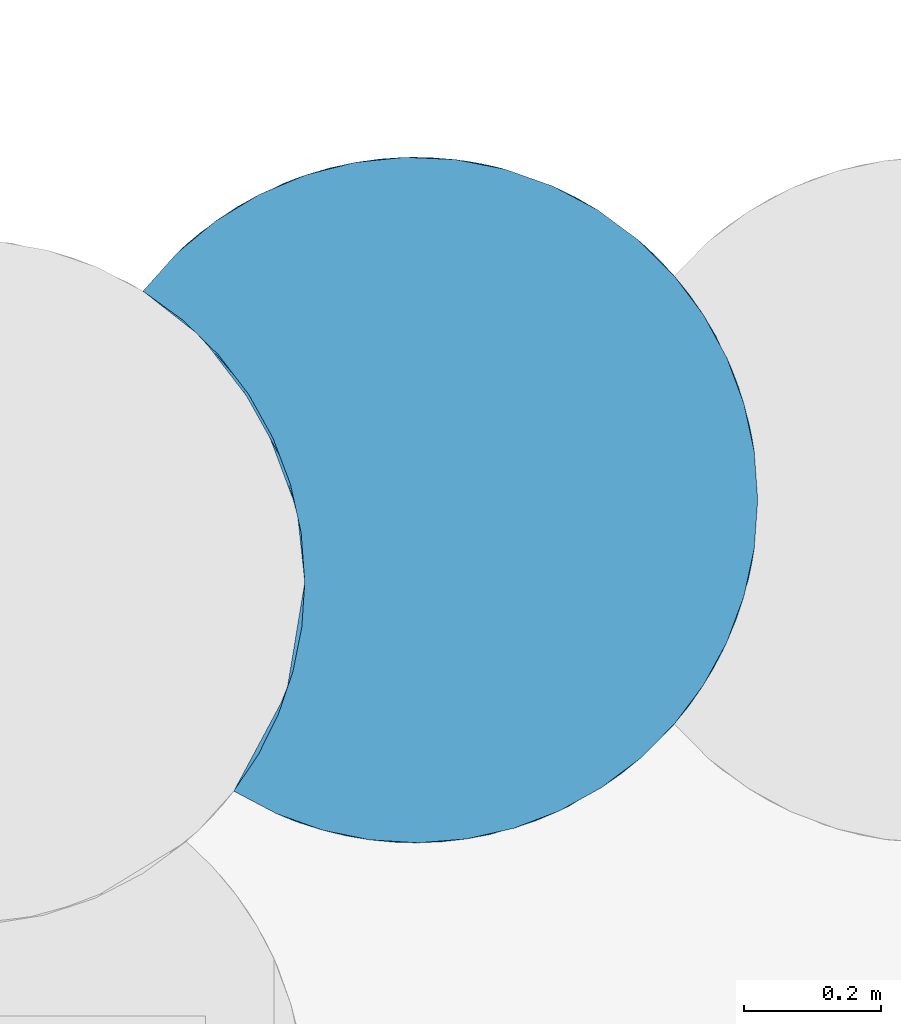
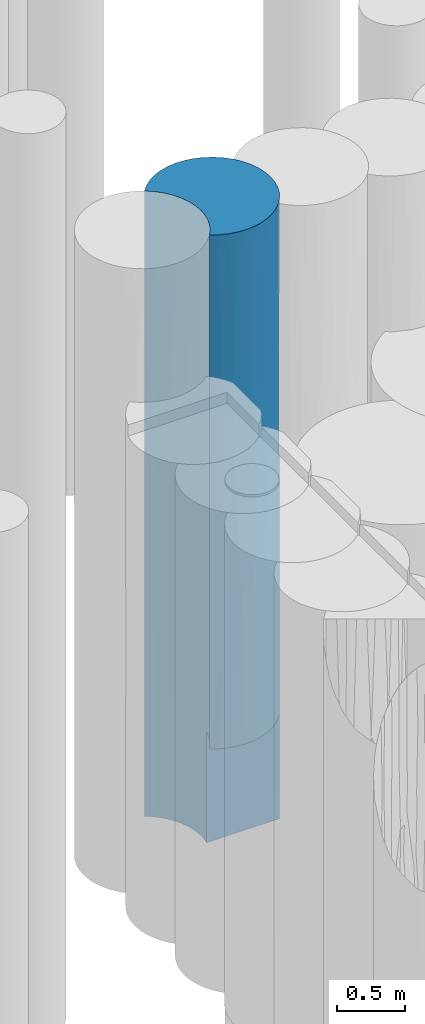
# One storey, part 27 of 104: 1 pile.
"""IFC2X3 building model written with IfcOpenShell, lengths in millimetres."""

from ifc_helpers import new_model, entity, si_unit, converted_unit, derived_unit, direction, frame, origin, place, context, subcontext, project, spatial, faceted_brep, source, transform, mapped, material, element, save


model = new_model("IFC2X3")

# Units and contexts
model_context = context("Model", 3, precision=0.01, world=origin(), true_north=direction((6.12303176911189e-17, 1.0)))
body_context = subcontext(model_context, "Body", "Model", "MODEL_VIEW")
ifc_project = project(units=[si_unit("LENGTHUNIT", "METRE", prefix="MILLI"), si_unit("AREAUNIT", "SQUARE_METRE", prefix="MILLI"), si_unit("VOLUMEUNIT", "CUBIC_METRE"), converted_unit("PLANEANGLEUNIT", "DEGREE", entity("IfcRatioMeasure", 0.0174532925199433), si_unit("PLANEANGLEUNIT", "RADIAN"), dimensions=[0, 0, 0, 0, 0, 0, 0]), si_unit("MASSUNIT", "GRAM", prefix="KILO"), derived_unit("MASSDENSITYUNIT", [(si_unit("MASSUNIT", "GRAM", prefix="KILO"), 1), (si_unit("LENGTHUNIT", "METRE"), -3)]), derived_unit("MOMENTOFINERTIAUNIT", [(si_unit("LENGTHUNIT", "METRE"), 4)]), si_unit("TIMEUNIT", "SECOND"), si_unit("FREQUENCYUNIT", "HERTZ"), si_unit("THERMODYNAMICTEMPERATUREUNIT", "DEGREE_CELSIUS"), derived_unit("THERMALTRANSMITTANCEUNIT", [(si_unit("MASSUNIT", "GRAM", prefix="KILO"), 1), (si_unit("THERMODYNAMICTEMPERATUREUNIT", "KELVIN"), -1), (si_unit("TIMEUNIT", "SECOND"), -3)]), derived_unit("VOLUMETRICFLOWRATEUNIT", [(si_unit("LENGTHUNIT", "METRE"), 3), (si_unit("TIMEUNIT", "SECOND"), -1)]), si_unit("ELECTRICCURRENTUNIT", "AMPERE"), si_unit("ELECTRICVOLTAGEUNIT", "VOLT"), si_unit("POWERUNIT", "WATT"), si_unit("FORCEUNIT", "NEWTON", prefix="KILO"), si_unit("ILLUMINANCEUNIT", "LUX"), si_unit("LUMINOUSFLUXUNIT", "LUMEN"), si_unit("LUMINOUSINTENSITYUNIT", "CANDELA"), derived_unit("USERDEFINED", [(si_unit("MASSUNIT", "GRAM", prefix="KILO"), -1), (si_unit("LENGTHUNIT", "METRE"), -2), (si_unit("TIMEUNIT", "SECOND"), 3), (si_unit("LUMINOUSFLUXUNIT", "LUMEN"), 1)]), derived_unit("LINEARVELOCITYUNIT", [(si_unit("LENGTHUNIT", "METRE"), 1), (si_unit("TIMEUNIT", "SECOND"), -1)]), si_unit("PRESSUREUNIT", "PASCAL"), derived_unit("USERDEFINED", [(si_unit("LENGTHUNIT", "METRE"), -2), (si_unit("MASSUNIT", "GRAM", prefix="KILO"), 1), (si_unit("TIMEUNIT", "SECOND"), -2)]), derived_unit("LINEARFORCEUNIT", [(si_unit("MASSUNIT", "GRAM", prefix="KILO"), 1), (si_unit("LENGTHUNIT", "METRE"), 1), (si_unit("TIMEUNIT", "SECOND"), -2), (si_unit("LENGTHUNIT", "METRE"), -1)]), derived_unit("PLANARFORCEUNIT", [(si_unit("MASSUNIT", "GRAM", prefix="KILO"), 1), (si_unit("LENGTHUNIT", "METRE"), 1), (si_unit("TIMEUNIT", "SECOND"), -2), (si_unit("LENGTHUNIT", "METRE"), -2)])], contexts=[model_context])

# Site, building, storey
site_placement = place(None, origin())
site = spatial("IfcSite", under=ifc_project, at=site_placement, Name="Theater aan de Parade", CompositionType="ELEMENT")
building_placement = place(site_placement, origin())
building = spatial("IfcBuilding", under=site, at=building_placement, Name="Theater aan de Parade", CompositionType="ELEMENT")
storey_placement = place(building_placement, frame((0.0, 0.0, -5520.0)))
storey = spatial("IfcBuildingStorey", under=building, at=storey_placement, Name="-2 kelder", CompositionType="ELEMENT", Elevation=-5520.0)

# Pile
ifc_material = material(Name="00_PBT_MAT_grout")
shared_shape = source(origin(), body_context, "Body", "Brep", [
    faceted_brep([(383.685561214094, 1001.36499844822, 0.0), (457.451308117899, 998.039591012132, 0.0), (529.922278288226, 983.886529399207, 0.0), (599.518179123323, 959.214667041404, 0.0), (664.721430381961, 924.562128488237, 0.0), (724.11021838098, 880.684581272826, 0.0), (776.380319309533, 828.539533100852, 0.0), (819.001267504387, 771.4853954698, 0.0), (853.076947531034, 708.9552122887, 0.0), (877.924742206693, 642.215158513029, 0.0), (893.038982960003, 572.620553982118, 0.0), (898.112452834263, 501.573176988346, 0.0), (892.357470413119, 425.93018261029, 0.0), (875.225589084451, 352.030356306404, 0.0), (847.11133924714, 281.573176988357, 0.0), (227.438972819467, 281.573176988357, 0.0), (235.007126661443, 331.299158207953, 0.0), (237.541024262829, 381.57317698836, 0.0), (232.299912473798, 453.778734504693, 0.0), (216.686454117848, 524.4705424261, 0.0), (191.02797671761, 592.166586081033, 0.0), (155.862396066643, 655.447655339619, 0.0), (111.926939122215, 712.987097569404, 0.0), (60.1426884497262, 763.57863017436, 0.0), (1.5952722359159, 806.161629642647, 0.0), (50.7747332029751, 861.234835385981, 0.0), (107.536753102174, 908.470907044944, 0.0), (170.636869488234, 946.831370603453, 0.0), (238.697326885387, 975.479093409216, 0.0), (310.233621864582, 993.789908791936, 0.0), (886.469305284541, 608.846587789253, 3274.77238221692), (898.112452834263, 501.57317698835, 2496.92455005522), (890.701084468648, 587.342868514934, 2029.23110966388), (893.038982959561, 572.620553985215, 5620.0), (891.022562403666, 585.475643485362, 4448.84672070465), (877.924742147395, 642.215158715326, 5620.0), (798.714309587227, 800.769019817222, 954.948973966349), (859.08011859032, 695.245093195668, 838.591674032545), (735.333533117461, 870.737020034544, 862.710628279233), (664.721430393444, 924.562128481, 5620.0), (632.760359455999, 943.093686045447, 4289.15649337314), (599.51817928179, 959.214666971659, 5620.0), (776.39375154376, 828.533815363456, 5620.0), (819.001267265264, 771.485395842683, 5620.0), (819.009886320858, 771.471955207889, 4178.05207387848), (837.153748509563, 740.827729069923, 3234.31863389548), (866.690585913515, 676.028137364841, 4359.74061850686), (511.637534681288, 988.51470919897, 833.937265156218), (70.5668306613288, 879.348064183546, 1489.04423626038), (1.5952722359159, 806.161629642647, 1561.53582921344), (274.126982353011, 985.956912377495, 1412.85801779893), (632.760359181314, 943.09368619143, 1352.66707253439), (818.954326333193, 771.55857938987, 1914.8559751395), (866.690586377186, 676.028136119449, 1666.88834285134), (107.536753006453, 908.470906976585, 5620.0), (170.636869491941, 946.831370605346, 5620.0), (138.377656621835, 928.817645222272, 4642.98311287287), (346.81956039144, 998.935257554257, 2697.48211070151), (225.362342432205, 970.782511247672, 2732.969797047), (204.137510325, 962.413411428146, 3862.83597304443), (50.7747330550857, 861.234835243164, 5620.0), (1.5952722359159, 806.161629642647, 4839.22611279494), (1.5952722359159, 806.161629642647, 5620.0), (1.5952722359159, 806.161629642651, 780.769009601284), (898.112452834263, 501.57317698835, 1561.53772497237), (751.21608482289, 855.57575477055, 4085.12489343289), (724.110218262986, 880.684581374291, 5620.0), (470.217889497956, 996.346666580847, 2788.29338879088), (632.760358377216, 943.093686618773, 2810.0), (493.948415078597, 992.302703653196, 1669.31624515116), (886.722515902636, 607.687296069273, 929.942340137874), (383.685561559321, 1001.36499845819, 5620.0), (346.819561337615, 998.935257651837, 4258.74319740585), (310.233622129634, 993.789908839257, 5620.0), (420.629905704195, 1001.06588395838, 938.261452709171), (393.348252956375, 1001.55047887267, 1852.15421685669), (853.076947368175, 708.955212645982, 5620.0), (898.112452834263, 501.57317698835, 5620.0), (898.112452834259, 501.57317698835, 4839.23113751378), (61.5763095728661, 871.361527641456, 4448.84671822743), (1.5952722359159, 806.161629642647, 4058.45819818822), (493.948415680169, 992.302703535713, 3907.27053109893), (493.948415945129, 992.30270348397, 4797.29415950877), (138.377656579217, 928.817645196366, 973.520934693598), (138.377656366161, 928.817645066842, 2004.56753867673), (751.216084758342, 855.575754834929, 1712.73917766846), (225.618714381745, 970.876820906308, 4733.2273488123), (238.697327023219, 975.479093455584, 5620.0), (457.451308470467, 998.039590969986, 5620.0), (529.922278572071, 983.886529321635, 5620.0), (60.9920336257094, 870.828946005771, 2501.51609416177), (86.0331108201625, 892.221976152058, 3590.76885410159), (764.162487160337, 842.17172714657, 2898.93203320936), (898.112452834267, 501.57317698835, 4058.4622750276), (898.112452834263, 501.573176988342, 2810.0), (1.59527223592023, 806.161629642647, 3123.07165842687), (871.134570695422, 663.591929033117, 2551.20550642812), (367.48390067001, 2.5121668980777, 2392.03258811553), (229.397628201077, 30.8978027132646, 1915.82668576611), (332.296140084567, 5.92389273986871, 1000.0), (886.808415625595, 395.855364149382, 3250.85310883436), (890.456049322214, 414.407914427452, 4638.91681543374), (196.559174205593, 43.9966523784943, 1000.0), (263.079618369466, 20.1522243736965, 1000.0), (729.774460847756, 127.407020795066, 3309.9953882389), (699.062255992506, 102.2872944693, 2481.29891870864), (774.041437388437, 171.910624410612, 2425.46266462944), (220.355405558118, 34.2377170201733, 4167.39335114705), (227.021110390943, 31.7564547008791, 2887.30901246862), (297.427367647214, 11.815569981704, 3665.18952131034), (507.997444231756, 13.7973179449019, 3309.99066008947), (473.9455393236, 7.35728995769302, 2381.95780749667), (575.658302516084, 34.1574399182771, 2223.53955366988), (542.188145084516, 22.7807429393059, 1000.0), (575.644441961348, 34.1521752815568, 4396.48950154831), (473.244283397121, 7.25019751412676, 5620.0), (438.128637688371, 3.17704442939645, 4396.41690280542), (402.812959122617, 1.5952722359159, 5620.0), (297.427367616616, 11.8155699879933, 4669.59718121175), (134.058204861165, 76.9847243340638, 1000.0), (134.058204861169, 76.9847243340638, 2496.92458556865), (473.257447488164, 7.25219849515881, 1000.0), (134.058204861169, 76.9847243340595, 5620.0), (134.058204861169, 76.9847243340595, 4058.46229278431), (196.554013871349, 43.9989254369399, 5620.0), (818.99608792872, 231.652881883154, 5620.0), (798.709106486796, 202.370367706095, 4487.98401140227), (853.074507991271, 294.185789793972, 5620.0), (670.097413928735, 82.0208191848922, 1000.0), (622.751316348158, 54.8771046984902, 3243.95252695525), (608.24095738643, 47.8706185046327, 1000.0), (866.689090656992, 327.114200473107, 4098.49570027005), (832.045257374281, 253.1736577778, 2211.63533183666), (796.614310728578, 199.585976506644, 3310.00854581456), (852.261580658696, 292.411589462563, 3150.31836188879), (134.058204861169, 76.9847243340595, 3277.69343917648), (332.286196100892, 5.92521328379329, 5620.0), (263.071897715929, 20.1543899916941, 5620.0), (402.824781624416, 1.59538352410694, 1000.0), (542.174301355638, 22.7765773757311, 5620.0), (886.418386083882, 394.068221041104, 1090.71921881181), (699.049978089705, 102.278040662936, 4138.62967590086), (847.11133924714, 281.573176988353, 1000.0), (883.515200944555, 381.63914459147, 2185.76885280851), (815.185263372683, 225.801041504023, 1000.0), (776.39816711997, 174.617647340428, 1000.0), (776.38865272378, 174.606639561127, 5620.0), (877.923984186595, 360.928609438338, 5620.0), (608.227167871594, 47.8642322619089, 5620.0), (726.522719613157, 124.549707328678, 1000.0), (726.511208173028, 124.539680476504, 5620.0), (670.08442172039, 82.0123969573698, 5620.0), (893.039043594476, 430.526222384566, 5620.0), (400.035720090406, 1.57687595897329, 3347.27333721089), (191.02797671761, 592.166586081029, 5620.0), (216.686454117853, 524.470542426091, 5620.0), (232.299912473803, 453.778734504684, 5620.0), (237.541024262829, 381.573176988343, 5620.0), (233.25661524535, 316.258149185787, 5620.0), (220.476812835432, 252.062466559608, 5620.0), (199.420632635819, 190.086291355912, 5620.0), (170.448927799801, 131.391748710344, 5620.0), (60.1426884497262, 763.57863017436, 5620.0), (111.92693912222, 712.987097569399, 5620.0), (155.862396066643, 655.447655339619, 5620.0), (205.084047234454, 558.783565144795, 1275.4748546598), (174.592006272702, 624.444416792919, 2413.17821378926), (134.937434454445, 685.013604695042, 1275.47485737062), (146.052218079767, 669.876150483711, 4791.14471438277), (86.9516662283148, 739.221332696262, 4691.947622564), (134.937434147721, 685.013605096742, 3964.75162039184), (237.541024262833, 381.573176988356, 780.768862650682), (71.854896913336, 753.371824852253, 3590.76885520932), (86.360499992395, 739.797929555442, 2342.39364619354), (230.172266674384, 467.097787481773, 1171.15327857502), (237.541024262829, 381.573176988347, 1405.0), (237.541024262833, 381.573176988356, 1561.53772530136), (230.162823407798, 467.152163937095, 4475.99950351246), (205.084046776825, 558.783566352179, 4290.23486386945), (227.689766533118, 480.336583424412, 3590.76885120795), (237.541024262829, 381.573176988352, 4058.4622746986), (237.541024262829, 381.573176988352, 3123.07545060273), (226.296279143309, 487.016530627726, 2342.3065610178), (70.3292918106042, 754.737978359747, 1171.15328001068), (196.384607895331, 580.225047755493, 3309.04841243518), (237.541024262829, 381.573176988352, 2810.0), (127.214742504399, 694.869192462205, 3061.57673222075), (175.418032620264, 140.194376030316, 1000.0), (182.010174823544, 152.559696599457, 1969.45245263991), (210.963980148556, 220.729448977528, 4143.27025902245), (227.438972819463, 281.573176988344, 1000.0), (218.485400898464, 244.852635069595, 2318.9624759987), (206.783588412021, 208.913349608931, 1000.0), (180.768461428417, 150.165659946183, 3277.69344064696), (218.083139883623, 243.44542773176, 3244.18304789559)], [[[0, 1, 2, 3, 4, 5, 6, 7, 8, 9, 10, 11, 12, 13, 14, 15, 16, 17, 18, 19, 20, 21, 22, 23, 24, 25, 26, 27, 28, 29]], [[30, 31, 32]], [[33, 34, 35]], [[36, 37, 7]], [[38, 36, 6]], [[38, 6, 5]], [[39, 40, 41]], [[42, 43, 44]], [[45, 46, 30]], [[2, 47, 3]], [[48, 25, 49]], [[29, 28, 50]], [[4, 51, 38]], [[37, 52, 53]], [[54, 55, 56]], [[57, 58, 59]], [[51, 4, 3]], [[60, 61, 62]], [[25, 24, 63, 49]], [[64, 32, 31]], [[65, 66, 42]], [[67, 68, 69]], [[70, 10, 9]], [[71, 72, 73]], [[74, 75, 69]], [[76, 35, 46]], [[51, 3, 47]], [[46, 44, 76]], [[57, 59, 72]], [[33, 77, 78]], [[43, 76, 44]], [[34, 33, 78]], [[66, 65, 40]], [[46, 45, 44]], [[39, 66, 40]], [[61, 79, 80]], [[29, 50, 74]], [[40, 81, 82]], [[69, 47, 74]], [[11, 10, 70]], [[50, 28, 83]], [[37, 9, 8]], [[84, 83, 48]], [[72, 81, 67]], [[70, 9, 37]], [[38, 85, 36]], [[68, 51, 69]], [[68, 81, 40]], [[83, 27, 26]], [[86, 59, 56]], [[68, 40, 65]], [[68, 85, 51]], [[87, 86, 55]], [[6, 36, 7]], [[40, 82, 41]], [[88, 89, 82]], [[72, 71, 82]], [[69, 75, 67]], [[74, 47, 1]], [[71, 88, 82]], [[55, 86, 56]], [[84, 90, 91]], [[58, 50, 84]], [[86, 73, 72]], [[83, 28, 27]], [[60, 54, 79]], [[65, 44, 92]], [[84, 48, 90]], [[1, 0, 74]], [[30, 93, 94, 31]], [[68, 65, 92]], [[52, 36, 85]], [[37, 53, 70]], [[83, 26, 25]], [[50, 83, 84]], [[80, 91, 95]], [[79, 54, 56]], [[32, 70, 53]], [[11, 70, 64]], [[29, 74, 0]], [[75, 50, 57]], [[82, 89, 41]], [[72, 82, 81]], [[56, 59, 91]], [[91, 59, 58]], [[92, 52, 85]], [[96, 52, 45]], [[70, 32, 64]], [[32, 96, 30]], [[32, 53, 96]], [[46, 34, 30]], [[52, 96, 53]], [[45, 30, 96]], [[50, 75, 74]], [[67, 75, 57]], [[25, 48, 83]], [[90, 49, 95]], [[49, 90, 48]], [[91, 90, 95]], [[4, 38, 5]], [[51, 85, 38]], [[73, 86, 87]], [[72, 59, 86]], [[7, 37, 8]], [[52, 37, 36]], [[51, 47, 69]], [[1, 47, 2]], [[50, 58, 57]], [[91, 58, 84]], [[72, 67, 57]], [[68, 67, 81]], [[52, 92, 45]], [[68, 92, 85]], [[92, 44, 45]], [[44, 65, 42]], [[34, 78, 93]], [[30, 34, 93]], [[34, 46, 35]], [[79, 91, 80]], [[60, 79, 61]], [[91, 79, 56]], [[97, 98, 99]], [[100, 93, 101]], [[102, 103, 98]], [[104, 105, 106]], [[107, 108, 109]], [[110, 111, 112]], [[112, 111, 113]], [[114, 115, 116]], [[116, 117, 118]], [[119, 98, 120]], [[121, 113, 111]], [[122, 123, 124]], [[125, 126, 127]], [[112, 128, 105]], [[112, 129, 110]], [[113, 130, 112]], [[131, 100, 101]], [[102, 98, 119]], [[109, 118, 107]], [[132, 133, 106]], [[134, 100, 131]], [[116, 110, 114]], [[108, 107, 135]], [[118, 136, 137]], [[115, 117, 116]], [[111, 138, 121]], [[115, 114, 139]], [[11, 64, 140]], [[104, 126, 141]], [[142, 143, 132]], [[144, 132, 145]], [[128, 112, 130]], [[106, 145, 132]], [[125, 146, 126]], [[143, 100, 134]], [[132, 144, 142]], [[143, 64, 31, 94]], [[131, 126, 133]], [[140, 13, 12]], [[116, 118, 109]], [[14, 13, 142]], [[118, 137, 124]], [[138, 97, 99]], [[147, 127, 131]], [[114, 148, 139]], [[149, 105, 128]], [[140, 143, 142]], [[106, 149, 145]], [[150, 151, 141]], [[64, 143, 140]], [[129, 114, 110]], [[126, 150, 141]], [[126, 131, 127]], [[77, 152, 101]], [[153, 116, 109]], [[118, 117, 136]], [[114, 151, 148]], [[151, 114, 141]], [[101, 147, 131]], [[129, 112, 105]], [[126, 146, 150]], [[107, 124, 123]], [[100, 143, 94]], [[153, 109, 97]], [[104, 129, 105]], [[114, 129, 141]], [[124, 107, 118]], [[107, 123, 135]], [[135, 120, 108]], [[97, 108, 98]], [[97, 109, 108]], [[98, 103, 99]], [[120, 98, 108]], [[13, 140, 142]], [[11, 140, 12]], [[93, 100, 94]], [[131, 133, 134]], [[133, 132, 134]], [[143, 134, 132]], [[126, 104, 133]], [[129, 104, 141]], [[101, 93, 78, 77]], [[147, 101, 152]], [[104, 106, 133]], [[106, 105, 149]], [[111, 153, 97]], [[116, 153, 110]], [[153, 111, 110]], [[111, 97, 138]], [[154, 155, 156, 157, 158, 159, 160, 161, 122, 124, 137, 136, 117, 115, 139, 148, 151, 150, 146, 125, 127, 147, 152, 77, 33, 35, 76, 43, 42, 66, 39, 41, 89, 88, 71, 73, 87, 55, 54, 60, 62, 162, 163, 164]], [[165, 166, 167]], [[20, 165, 21]], [[21, 167, 22]], [[168, 169, 170]], [[17, 171, 18]], [[168, 163, 169]], [[172, 95, 173]], [[174, 171, 175, 176]], [[165, 20, 19]], [[177, 178, 179]], [[163, 162, 169]], [[63, 24, 23]], [[177, 180, 157]], [[179, 181, 180]], [[177, 179, 180]], [[182, 181, 179]], [[173, 167, 166]], [[156, 155, 177]], [[63, 23, 183]], [[172, 80, 95]], [[184, 178, 170]], [[165, 167, 21]], [[95, 49, 173]], [[154, 178, 155]], [[154, 168, 178]], [[169, 162, 62]], [[166, 182, 184]], [[183, 23, 22]], [[165, 19, 174]], [[164, 163, 168]], [[170, 169, 172]], [[169, 62, 61, 80]], [[182, 176, 185, 181]], [[179, 178, 184]], [[174, 19, 18]], [[165, 182, 166]], [[80, 172, 169]], [[173, 186, 172]], [[186, 170, 172]], [[173, 183, 167]], [[179, 184, 182]], [[186, 166, 184]], [[170, 186, 184]], [[186, 173, 166]], [[178, 177, 155]], [[156, 177, 157]], [[164, 168, 154]], [[168, 170, 178]], [[49, 63, 183]], [[49, 183, 173]], [[22, 167, 183]], [[176, 182, 174]], [[171, 174, 18]], [[165, 174, 182]], [[187, 119, 188]], [[159, 189, 160]], [[190, 175, 16]], [[123, 122, 161]], [[188, 191, 192]], [[180, 158, 157]], [[158, 180, 189]], [[190, 192, 191]], [[189, 193, 123]], [[194, 180, 181, 185]], [[16, 15, 190]], [[191, 193, 194]], [[120, 193, 188]], [[16, 175, 171, 17]], [[189, 123, 161]], [[190, 191, 175]], [[189, 194, 193]], [[159, 158, 189]], [[194, 189, 180]], [[193, 120, 135, 123]], [[119, 120, 188]], [[191, 185, 176, 175]], [[194, 185, 191]], [[160, 189, 161]], [[187, 188, 192]], [[191, 188, 193]], [[103, 102, 119, 187, 192, 190, 142, 144, 145, 149, 128, 130, 113, 121, 138, 99]], [[190, 15, 14, 142]]]),
])
pile_placement = place(storey_placement, frame((35112.3171058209, 26760.7942264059, -3840.0)))
element("IfcPile", 1, at=pile_placement, inside=storey, material=ifc_material, Name="17_PBT_SFO_grondkering_rond:Ø1000 (grondkering)", ObjectType="17_PBT_SFO_grondkering_rond:Ø1000 (grondkering)", PredefinedType="NOTDEFINED", context=body_context, shape_type="MappedRepresentation", body=[
    mapped(shared_shape, transform((0.0, 0.0, 0.0), scale=1.0)),
])

save(model, "model.ifc")
